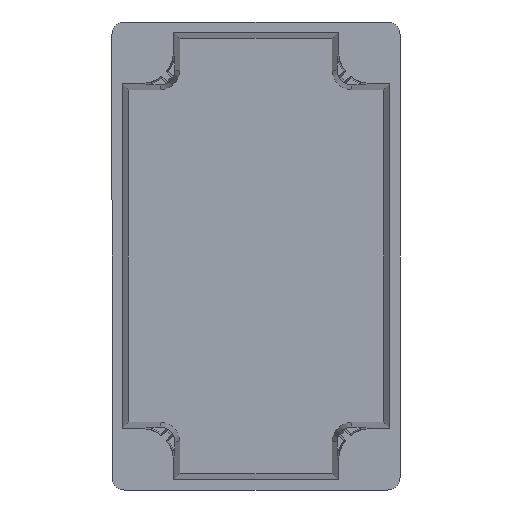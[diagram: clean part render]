
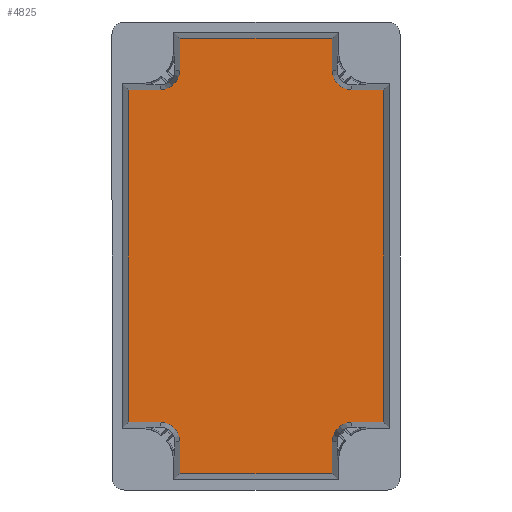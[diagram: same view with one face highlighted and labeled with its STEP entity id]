
A CAD part, front view. The second image highlights one B-rep face of the part: STEP entity #4825.
In plain terms, the highlighted planar face has unit normal (0, -1, 0).
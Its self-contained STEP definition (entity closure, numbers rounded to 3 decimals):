
#2092 = CARTESIAN_POINT ( 'NONE',  ( -26.634, 49.3, 51.634 ) ) ;
#2093 = AXIS2_PLACEMENT_3D ( 'NONE', #2092, #2143, #2142 ) ;
#2094 = CIRCLE ( 'NONE', #2093, 5.425 ) ;
#2095 = CARTESIAN_POINT ( 'NONE',  ( -21.209, 49.3, 51.634 ) ) ;
#2096 = DIRECTION ( 'NONE',  ( 0., 0., -1. ) ) ;
#2097 = VECTOR ( 'NONE', #2096, 1000. ) ;
#2098 = CARTESIAN_POINT ( 'NONE',  ( -21.209, 49.3, 51.634 ) ) ;
#2099 = LINE ( 'NONE', #2098, #2097 ) ;
#2100 = DIRECTION ( 'NONE',  ( -1., 0., 0. ) ) ;
#2101 = VECTOR ( 'NONE', #2100, 1000. ) ;
#2102 = CARTESIAN_POINT ( 'NONE',  ( 22.529, 49.3, 60.459 ) ) ;
#2103 = LINE ( 'NONE', #2102, #2101 ) ;
#2112 = VECTOR ( 'NONE', #2202, 1000. ) ;
#2113 = CARTESIAN_POINT ( 'NONE',  ( 36.779, 49.3, 46.209 ) ) ;
#2114 = LINE ( 'NONE', #2113, #2112 ) ;
#2115 = CARTESIAN_POINT ( 'NONE',  ( 35.459, 49.3, 46.209 ) ) ;
#2116 = DIRECTION ( 'NONE',  ( 0., 0., 1. ) ) ;
#2117 = VECTOR ( 'NONE', #2116, 1000. ) ;
#2118 = CARTESIAN_POINT ( 'NONE',  ( 35.459, 49.3, -47.529 ) ) ;
#2119 = LINE ( 'NONE', #2118, #2117 ) ;
#2120 = CARTESIAN_POINT ( 'NONE',  ( 35.459, 49.3, -46.209 ) ) ;
#2121 = DIRECTION ( 'NONE',  ( 1., 0., 0. ) ) ;
#2122 = VECTOR ( 'NONE', #2121, 1000. ) ;
#2123 = CARTESIAN_POINT ( 'NONE',  ( 36.779, 49.3, -46.209 ) ) ;
#2124 = LINE ( 'NONE', #2123, #2122 ) ;
#2125 = CARTESIAN_POINT ( 'NONE',  ( 26.634, 49.3, -46.209 ) ) ;
#2126 = DIRECTION ( 'NONE',  ( 0., 0., 1. ) ) ;
#2127 = DIRECTION ( 'NONE',  ( 0., 1., 0. ) ) ;
#2128 = CARTESIAN_POINT ( 'NONE',  ( 26.634, 49.3, -51.634 ) ) ;
#2129 = AXIS2_PLACEMENT_3D ( 'NONE', #2128, #2127, #2126 ) ;
#2130 = CIRCLE ( 'NONE', #2129, 5.425 ) ;
#2131 = CARTESIAN_POINT ( 'NONE',  ( -35.459, 49.3, -46.209 ) ) ;
#2132 = DIRECTION ( 'NONE',  ( 0., 0., -1. ) ) ;
#2133 = VECTOR ( 'NONE', #2132, 1000. ) ;
#2134 = CARTESIAN_POINT ( 'NONE',  ( -35.459, 49.3, 47.529 ) ) ;
#2135 = LINE ( 'NONE', #2134, #2133 ) ;
#2136 = CARTESIAN_POINT ( 'NONE',  ( -35.459, 49.3, 46.209 ) ) ;
#2137 = DIRECTION ( 'NONE',  ( -1., 0., 0. ) ) ;
#2138 = VECTOR ( 'NONE', #2137, 1000. ) ;
#2139 = CARTESIAN_POINT ( 'NONE',  ( -36.779, 49.3, 46.209 ) ) ;
#2140 = LINE ( 'NONE', #2139, #2138 ) ;
#2141 = CARTESIAN_POINT ( 'NONE',  ( -26.634, 49.3, 46.209 ) ) ;
#2142 = DIRECTION ( 'NONE',  ( 0., 0., 1. ) ) ;
#2143 = DIRECTION ( 'NONE',  ( 0., 1., 0. ) ) ;
#2202 = DIRECTION ( 'NONE',  ( -1., 0., 0. ) ) ;
#2203 = AXIS2_PLACEMENT_3D ( 'NONE', #2268, #2267, #2266 ) ;
#2204 = CIRCLE ( 'NONE', #2203, 5.425 ) ;
#2205 = DIRECTION ( 'NONE',  ( 0., 0., 1. ) ) ;
#2206 = DIRECTION ( 'NONE',  ( 0., 1., 0. ) ) ;
#2207 = CARTESIAN_POINT ( 'NONE',  ( -31.75, 49.3, -56.75 ) ) ;
#2208 = AXIS2_PLACEMENT_3D ( 'NONE', #2207, #2206, #2205 ) ;
#2209 = PLANE ( 'NONE',  #2208 ) ;
#2210 = FACE_OUTER_BOUND ( 'NONE', #4826, .T. ) ;
#2260 = DIRECTION ( 'NONE',  ( 0., 0., 1. ) ) ;
#2261 = VECTOR ( 'NONE', #2260, 1000. ) ;
#2262 = CARTESIAN_POINT ( 'NONE',  ( 21.209, 49.3, 51.634 ) ) ;
#2263 = LINE ( 'NONE', #2262, #2261 ) ;
#2264 = CARTESIAN_POINT ( 'NONE',  ( 21.209, 49.3, 51.634 ) ) ;
#2265 = CARTESIAN_POINT ( 'NONE',  ( 26.634, 49.3, 46.209 ) ) ;
#2266 = DIRECTION ( 'NONE',  ( 0., 0., 1. ) ) ;
#2267 = DIRECTION ( 'NONE',  ( 0., 1., 0. ) ) ;
#2268 = CARTESIAN_POINT ( 'NONE',  ( 26.634, 49.3, 51.634 ) ) ;
#2269 = DIRECTION ( 'NONE',  ( 1., 0., 0. ) ) ;
#2270 = CARTESIAN_POINT ( 'NONE',  ( -36.779, 49.3, -46.209 ) ) ;
#2276 = LINE ( 'NONE', #2270, #2319 ) ;
#2316 = CARTESIAN_POINT ( 'NONE',  ( -21.209, 49.3, 60.459 ) ) ;
#2317 = CARTESIAN_POINT ( 'NONE',  ( 21.209, 49.3, 60.459 ) ) ;
#2318 = CARTESIAN_POINT ( 'NONE',  ( -26.634, 49.3, -46.209 ) ) ;
#2319 = VECTOR ( 'NONE', #2269, 1000. ) ;
#2325 = CARTESIAN_POINT ( 'NONE',  ( 21.209, 49.3, -51.634 ) ) ;
#2326 = LINE ( 'NONE', #2325, #2383 ) ;
#2327 = CARTESIAN_POINT ( 'NONE',  ( 21.209, 49.3, -60.459 ) ) ;
#2328 = DIRECTION ( 'NONE',  ( 1., 0., 0. ) ) ;
#2367 = CARTESIAN_POINT ( 'NONE',  ( -21.209, 49.3, -51.634 ) ) ;
#2368 = DIRECTION ( 'NONE',  ( 0., 0., 1. ) ) ;
#2369 = DIRECTION ( 'NONE',  ( 0., 1., 0. ) ) ;
#2370 = CARTESIAN_POINT ( 'NONE',  ( -26.634, 49.3, -51.634 ) ) ;
#2375 = VECTOR ( 'NONE', #2328, 1000. ) ;
#2376 = CARTESIAN_POINT ( 'NONE',  ( -22.529, 49.3, -60.459 ) ) ;
#2377 = LINE ( 'NONE', #2376, #2375 ) ;
#2381 = CARTESIAN_POINT ( 'NONE',  ( 21.209, 49.3, -51.634 ) ) ;
#2382 = DIRECTION ( 'NONE',  ( 0., 0., 1. ) ) ;
#2383 = VECTOR ( 'NONE', #2382, 1000. ) ;
#2389 = AXIS2_PLACEMENT_3D ( 'NONE', #2370, #2369, #2368 ) ;
#2390 = CIRCLE ( 'NONE', #2389, 5.425 ) ;
#2413 = CARTESIAN_POINT ( 'NONE',  ( -21.209, 49.3, -60.459 ) ) ;
#2414 = DIRECTION ( 'NONE',  ( 0., 0., -1. ) ) ;
#2415 = VECTOR ( 'NONE', #2414, 1000. ) ;
#2416 = CARTESIAN_POINT ( 'NONE',  ( -21.209, 49.3, -51.634 ) ) ;
#2417 = LINE ( 'NONE', #2416, #2415 ) ;
#4825 = ADVANCED_FACE ( 'NONE', ( #2210 ), #2209, .F. ) ;
#4826 = EDGE_LOOP ( 'NONE', ( #4827, #4831, #4888, #4890, #4893, #4896, #4899, #4869, #4872, #4954, #4957, #4960, #4902, #4905, #4908, #4911 ) ) ;
#4827 = ORIENTED_EDGE ( 'NONE', *, *, #4828, .T. ) ;
#4828 = EDGE_CURVE ( 'NONE', #4829, #4830, #2204, .T. ) ;
#4829 = VERTEX_POINT ( 'NONE', #2265 ) ;
#4830 = VERTEX_POINT ( 'NONE', #2264 ) ;
#4831 = ORIENTED_EDGE ( 'NONE', *, *, #4832, .T. ) ;
#4832 = EDGE_CURVE ( 'NONE', #4830, #4873, #2263, .T. ) ;
#4869 = ORIENTED_EDGE ( 'NONE', *, *, #4870, .T. ) ;
#4870 = EDGE_CURVE ( 'NONE', #4901, #4871, #2276, .T. ) ;
#4871 = VERTEX_POINT ( 'NONE', #2318 ) ;
#4872 = ORIENTED_EDGE ( 'NONE', *, *, #4952, .T. ) ;
#4873 = VERTEX_POINT ( 'NONE', #2317 ) ;
#4874 = VERTEX_POINT ( 'NONE', #2316 ) ;
#4888 = ORIENTED_EDGE ( 'NONE', *, *, #4889, .T. ) ;
#4889 = EDGE_CURVE ( 'NONE', #4873, #4874, #2103, .T. ) ;
#4890 = ORIENTED_EDGE ( 'NONE', *, *, #4891, .T. ) ;
#4891 = EDGE_CURVE ( 'NONE', #4874, #4892, #2099, .T. ) ;
#4892 = VERTEX_POINT ( 'NONE', #2095 ) ;
#4893 = ORIENTED_EDGE ( 'NONE', *, *, #4894, .T. ) ;
#4894 = EDGE_CURVE ( 'NONE', #4892, #4895, #2094, .T. ) ;
#4895 = VERTEX_POINT ( 'NONE', #2141 ) ;
#4896 = ORIENTED_EDGE ( 'NONE', *, *, #4897, .T. ) ;
#4897 = EDGE_CURVE ( 'NONE', #4895, #4898, #2140, .T. ) ;
#4898 = VERTEX_POINT ( 'NONE', #2136 ) ;
#4899 = ORIENTED_EDGE ( 'NONE', *, *, #4900, .T. ) ;
#4900 = EDGE_CURVE ( 'NONE', #4898, #4901, #2135, .T. ) ;
#4901 = VERTEX_POINT ( 'NONE', #2131 ) ;
#4902 = ORIENTED_EDGE ( 'NONE', *, *, #4903, .T. ) ;
#4903 = EDGE_CURVE ( 'NONE', #4962, #4904, #2130, .T. ) ;
#4904 = VERTEX_POINT ( 'NONE', #2125 ) ;
#4905 = ORIENTED_EDGE ( 'NONE', *, *, #4906, .T. ) ;
#4906 = EDGE_CURVE ( 'NONE', #4904, #4907, #2124, .T. ) ;
#4907 = VERTEX_POINT ( 'NONE', #2120 ) ;
#4908 = ORIENTED_EDGE ( 'NONE', *, *, #4909, .T. ) ;
#4909 = EDGE_CURVE ( 'NONE', #4907, #4910, #2119, .T. ) ;
#4910 = VERTEX_POINT ( 'NONE', #2115 ) ;
#4911 = ORIENTED_EDGE ( 'NONE', *, *, #4912, .T. ) ;
#4912 = EDGE_CURVE ( 'NONE', #4910, #4829, #2114, .T. ) ;
#4952 = EDGE_CURVE ( 'NONE', #4871, #4953, #2390, .T. ) ;
#4953 = VERTEX_POINT ( 'NONE', #2367 ) ;
#4954 = ORIENTED_EDGE ( 'NONE', *, *, #4955, .T. ) ;
#4955 = EDGE_CURVE ( 'NONE', #4953, #4956, #2417, .T. ) ;
#4956 = VERTEX_POINT ( 'NONE', #2413 ) ;
#4957 = ORIENTED_EDGE ( 'NONE', *, *, #4958, .T. ) ;
#4958 = EDGE_CURVE ( 'NONE', #4956, #4959, #2377, .T. ) ;
#4959 = VERTEX_POINT ( 'NONE', #2327 ) ;
#4960 = ORIENTED_EDGE ( 'NONE', *, *, #4961, .T. ) ;
#4961 = EDGE_CURVE ( 'NONE', #4959, #4962, #2326, .T. ) ;
#4962 = VERTEX_POINT ( 'NONE', #2381 ) ;
